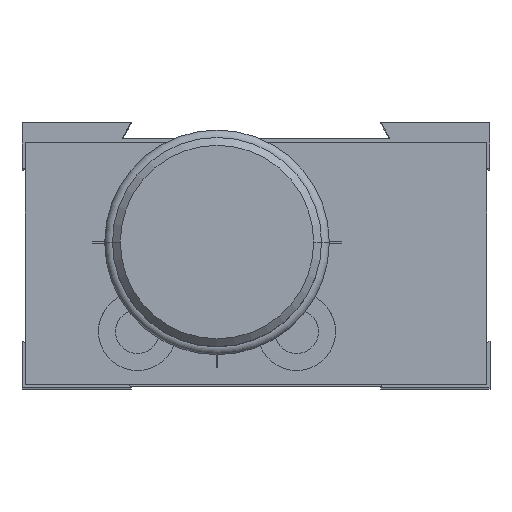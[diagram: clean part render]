
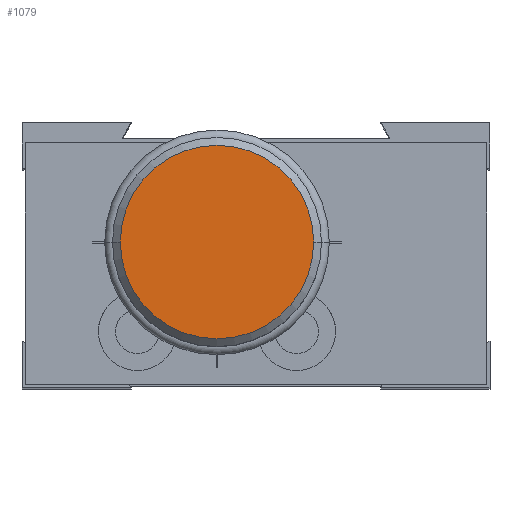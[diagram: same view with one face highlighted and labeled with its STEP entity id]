
A CAD part, top view. The second image highlights one B-rep face of the part: STEP entity #1079.
In plain terms, the highlighted planar face has unit normal (0, 0, 1).
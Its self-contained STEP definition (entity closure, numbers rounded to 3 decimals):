
#1079 = ADVANCED_FACE ( 'NONE', ( #3487 ), #3486, .T. ) ;
#1080 = EDGE_LOOP ( 'NONE', ( #1081, #1083 ) ) ;
#1081 = ORIENTED_EDGE ( 'NONE', *, *, #1082, .T. ) ;
#1082 = EDGE_CURVE ( 'NONE', #1650, #1646, #3481, .T. ) ;
#1083 = ORIENTED_EDGE ( 'NONE', *, *, #1643, .T. ) ;
#1643 = EDGE_CURVE ( 'NONE', #1646, #1650, #4333, .T. ) ;
#1646 = VERTEX_POINT ( 'NONE', #4324 ) ;
#1650 = VERTEX_POINT ( 'NONE', #4321 ) ;
#3477 = DIRECTION ( 'NONE',  ( 1., 0., 0. ) ) ;
#3478 = DIRECTION ( 'NONE',  ( 0., 0., 1. ) ) ;
#3479 = CARTESIAN_POINT ( 'NONE',  ( -2.5, 9.3, 53.5 ) ) ;
#3480 = AXIS2_PLACEMENT_3D ( 'NONE', #3479, #3478, #3477 ) ;
#3481 = CIRCLE ( 'NONE', #3480, 6.2 ) ;
#3482 = DIRECTION ( 'NONE',  ( 1., 0., 0. ) ) ;
#3483 = DIRECTION ( 'NONE',  ( 0., 0., 1. ) ) ;
#3484 = CARTESIAN_POINT ( 'NONE',  ( -2.5, 9.3, 53.5 ) ) ;
#3485 = AXIS2_PLACEMENT_3D ( 'NONE', #3484, #3483, #3482 ) ;
#3486 = PLANE ( 'NONE',  #3485 ) ;
#3487 = FACE_OUTER_BOUND ( 'NONE', #1080, .T. ) ;
#4321 = CARTESIAN_POINT ( 'NONE',  ( -8.7, 9.3, 53.5 ) ) ;
#4324 = CARTESIAN_POINT ( 'NONE',  ( 3.7, 9.3, 53.5 ) ) ;
#4329 = DIRECTION ( 'NONE',  ( 1., 0., 0. ) ) ;
#4330 = DIRECTION ( 'NONE',  ( 0., 0., 1. ) ) ;
#4331 = CARTESIAN_POINT ( 'NONE',  ( -2.5, 9.3, 53.5 ) ) ;
#4332 = AXIS2_PLACEMENT_3D ( 'NONE', #4331, #4330, #4329 ) ;
#4333 = CIRCLE ( 'NONE', #4332, 6.2 ) ;
